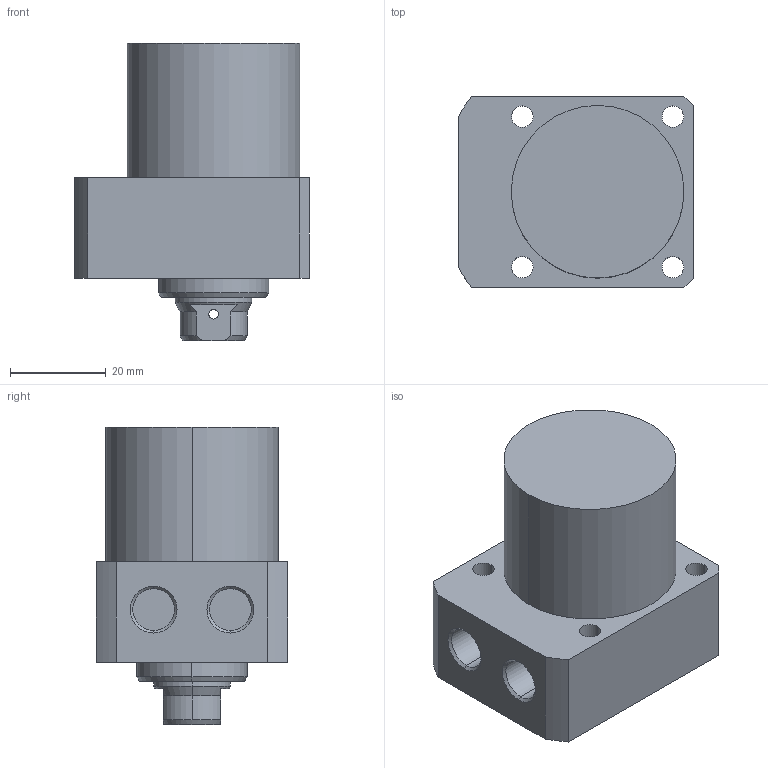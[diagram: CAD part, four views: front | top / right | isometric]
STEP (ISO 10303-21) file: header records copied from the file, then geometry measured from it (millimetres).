
FILE_DESCRIPTION (( 'STEP AP203' ), '1' );
FILE_NAME ('CLLR-036CB-020.STEP', '2019-12-20T00:21:28', ( '' ), ( '' ), 'SwSTEP 2.0', 'SolidWorks 2015', '' );
FILE_SCHEMA (( 'CONFIG_CONTROL_DESIGN' ));
Length unit declared in the file: millimetre
Products named in the file (1): CLLR-036CB-020
Bounding box: 49 x 40 x 62 mm (x, y, z)
Volume: 69181.9 mm3; surface area: 13279.1 mm2
Topology: 1 solids, 1 shells, 67 faces, 161 edges, 102 vertices
Faces by surface type: cylinder 33, plane 19, cone 15
Entity records: 2131 total; most frequent: CARTESIAN_POINT 429, DIRECTION 360, ORIENTED_EDGE 318, EDGE_CURVE 159, AXIS2_PLACEMENT_3D 145, VERTEX_POINT 102, EDGE_LOOP 87, CIRCLE 77
